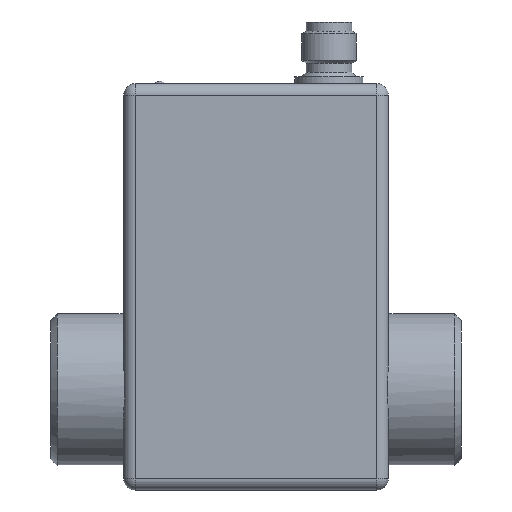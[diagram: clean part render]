
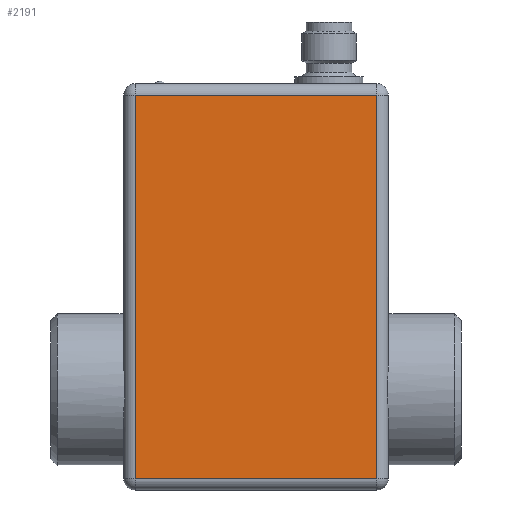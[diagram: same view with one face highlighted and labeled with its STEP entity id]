
A CAD part, front view. The second image highlights one B-rep face of the part: STEP entity #2191.
In plain terms, the highlighted planar face has unit normal (0, -1, 0).
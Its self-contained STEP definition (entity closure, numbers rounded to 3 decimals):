
#88=PLANE('',#2474);
#213=FACE_OUTER_BOUND('',#340,.T.);
#340=EDGE_LOOP('',(#1877,#1878,#1879,#1880));
#437=LINE('',#3641,#578);
#456=LINE('',#3683,#597);
#485=LINE('',#3803,#626);
#486=LINE('',#3805,#627);
#578=VECTOR('',#2923,10.);
#597=VECTOR('',#2960,10.);
#626=VECTOR('',#3121,10.);
#627=VECTOR('',#3124,10.);
#947=VERTEX_POINT('',#3638);
#948=VERTEX_POINT('',#3640);
#961=VERTEX_POINT('',#3680);
#962=VERTEX_POINT('',#3682);
#1202=EDGE_CURVE('',#947,#948,#437,.T.);
#1223=EDGE_CURVE('',#961,#962,#456,.T.);
#1285=EDGE_CURVE('',#962,#947,#485,.T.);
#1286=EDGE_CURVE('',#948,#961,#486,.T.);
#1877=ORIENTED_EDGE('',*,*,#1202,.F.);
#1878=ORIENTED_EDGE('',*,*,#1285,.F.);
#1879=ORIENTED_EDGE('',*,*,#1223,.F.);
#1880=ORIENTED_EDGE('',*,*,#1286,.F.);
#2191=ADVANCED_FACE('',(#213),#88,.F.);
#2474=AXIS2_PLACEMENT_3D('',#3816,#3141,#3142);
#2923=DIRECTION('',(0.,0.,-1.));
#2960=DIRECTION('',(0.,0.,1.));
#3121=DIRECTION('',(1.,0.,0.));
#3124=DIRECTION('',(-1.,0.,0.));
#3141=DIRECTION('center_axis',(0.,1.,0.));
#3142=DIRECTION('ref_axis',(0.,0.,1.));
#3638=CARTESIAN_POINT('',(26.5,-18.,64.5));
#3640=CARTESIAN_POINT('',(26.5,-18.,-19.5));
#3641=CARTESIAN_POINT('',(26.5,-18.,0.25));
#3680=CARTESIAN_POINT('',(-26.5,-18.,-19.5));
#3682=CARTESIAN_POINT('',(-26.5,-18.,64.5));
#3683=CARTESIAN_POINT('',(-26.5,-18.,44.75));
#3803=CARTESIAN_POINT('',(14.5,-18.,64.5));
#3805=CARTESIAN_POINT('',(-14.5,-18.,-19.5));
#3816=CARTESIAN_POINT('Origin',(0.,-18.,22.5));
